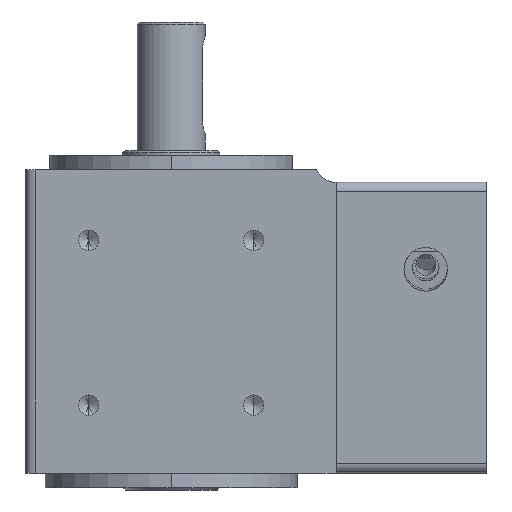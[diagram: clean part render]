
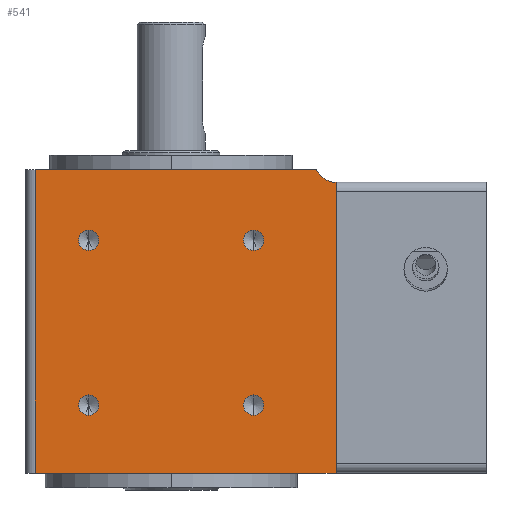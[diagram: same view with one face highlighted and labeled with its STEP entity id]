
A CAD part, left-side view. The second image highlights one B-rep face of the part: STEP entity #541.
In plain terms, the highlighted planar face has unit normal (-1, 0, 0).
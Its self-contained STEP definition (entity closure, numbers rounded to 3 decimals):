
#356 = VERTEX_POINT ( 'NONE', #8792 ) ;
#357 = VERTEX_POINT ( 'NONE', #8791 ) ;
#491 = EDGE_LOOP ( 'NONE', ( #545, #544 ) ) ;
#521 = VERTEX_POINT ( 'NONE', #9050 ) ;
#528 = VERTEX_POINT ( 'NONE', #9116 ) ;
#534 = EDGE_CURVE ( 'NONE', #1090, #1046, #9117, .T. ) ;
#535 = ORIENTED_EDGE ( 'NONE', *, *, #592, .F. ) ;
#537 = EDGE_LOOP ( 'NONE', ( #584, #574 ) ) ;
#541 = ADVANCED_FACE ( 'NONE', ( #9102, #9120, #9151, #9097, #9108 ), #9091, .F. ) ;
#543 = ORIENTED_EDGE ( 'NONE', *, *, #568, .F. ) ;
#544 = ORIENTED_EDGE ( 'NONE', *, *, #1088, .F. ) ;
#545 = ORIENTED_EDGE ( 'NONE', *, *, #534, .F. ) ;
#547 = ORIENTED_EDGE ( 'NONE', *, *, #32835, .F. ) ;
#549 = VERTEX_POINT ( 'NONE', #9149 ) ;
#557 = EDGE_LOOP ( 'NONE', ( #561, #602, #535, #565, #632 ) ) ;
#560 = VERTEX_POINT ( 'NONE', #9183 ) ;
#561 = ORIENTED_EDGE ( 'NONE', *, *, #596, .F. ) ;
#564 = VERTEX_POINT ( 'NONE', #9181 ) ;
#565 = ORIENTED_EDGE ( 'NONE', *, *, #589, .T. ) ;
#567 = ORIENTED_EDGE ( 'NONE', *, *, #952, .F. ) ;
#568 = EDGE_CURVE ( 'NONE', #549, #528, #9182, .T. ) ;
#571 = EDGE_LOOP ( 'NONE', ( #543, #567 ) ) ;
#574 = ORIENTED_EDGE ( 'NONE', *, *, #32837, .F. ) ;
#575 = EDGE_CURVE ( 'NONE', #356, #357, #9168, .T. ) ;
#576 = EDGE_CURVE ( 'NONE', #32838, #32823, #9173, .T. ) ;
#581 = EDGE_LOOP ( 'NONE', ( #582, #547 ) ) ;
#582 = ORIENTED_EDGE ( 'NONE', *, *, #576, .F. ) ;
#584 = ORIENTED_EDGE ( 'NONE', *, *, #575, .F. ) ;
#589 = EDGE_CURVE ( 'NONE', #608, #521, #9156, .T. ) ;
#592 = EDGE_CURVE ( 'NONE', #608, #564, #9210, .T. ) ;
#595 = EDGE_CURVE ( 'NONE', #560, #521, #9208, .T. ) ;
#596 = EDGE_CURVE ( 'NONE', #610, #560, #9195, .T. ) ;
#602 = ORIENTED_EDGE ( 'NONE', *, *, #605, .F. ) ;
#605 = EDGE_CURVE ( 'NONE', #564, #610, #9200, .T. ) ;
#608 = VERTEX_POINT ( 'NONE', #9242 ) ;
#610 = VERTEX_POINT ( 'NONE', #9185 ) ;
#632 = ORIENTED_EDGE ( 'NONE', *, *, #595, .F. ) ;
#952 = EDGE_CURVE ( 'NONE', #528, #549, #9942, .T. ) ;
#1046 = VERTEX_POINT ( 'NONE', #10148 ) ;
#1088 = EDGE_CURVE ( 'NONE', #1046, #1090, #10245, .T. ) ;
#1090 = VERTEX_POINT ( 'NONE', #10232 ) ;
#8791 = CARTESIAN_POINT ( 'NONE',  ( -30., 19., 48.9 ) ) ;
#8792 = CARTESIAN_POINT ( 'NONE',  ( -30., 19., 53.1 ) ) ;
#9050 = CARTESIAN_POINT ( 'NONE',  ( -30., 30., 3. ) ) ;
#9089 = DIRECTION ( 'NONE',  ( -1., 0., 0. ) ) ;
#9090 = CARTESIAN_POINT ( 'NONE',  ( -30., -15., 51. ) ) ;
#9091 = PLANE ( 'NONE',  #9139 ) ;
#9097 = FACE_BOUND ( 'NONE', #571, .T. ) ;
#9102 = FACE_BOUND ( 'NONE', #491, .T. ) ;
#9108 = FACE_OUTER_BOUND ( 'NONE', #557, .T. ) ;
#9109 = AXIS2_PLACEMENT_3D ( 'NONE', #9090, #9089, #9152 ) ;
#9116 = CARTESIAN_POINT ( 'NONE',  ( -30., -15., 14.9 ) ) ;
#9117 = CIRCLE ( 'NONE', #9109, 2.1 ) ;
#9120 = FACE_BOUND ( 'NONE', #537, .T. ) ;
#9133 = AXIS2_PLACEMENT_3D ( 'NONE', #9177, #9176, #9175 ) ;
#9136 = DIRECTION ( 'NONE',  ( 0., 0., -1. ) ) ;
#9137 = DIRECTION ( 'NONE',  ( 1., 0., 0. ) ) ;
#9138 = CARTESIAN_POINT ( 'NONE',  ( -30., -32., 68.5 ) ) ;
#9139 = AXIS2_PLACEMENT_3D ( 'NONE', #9138, #9137, #9136 ) ;
#9149 = CARTESIAN_POINT ( 'NONE',  ( -30., -15., 19.1 ) ) ;
#9151 = FACE_BOUND ( 'NONE', #581, .T. ) ;
#9152 = DIRECTION ( 'NONE',  ( 0., 0., 1. ) ) ;
#9153 = CARTESIAN_POINT ( 'NONE',  ( -30., 19., 17. ) ) ;
#9155 = CARTESIAN_POINT ( 'NONE',  ( -30., 30., 68.5 ) ) ;
#9156 = LINE ( 'NONE', #9155, #9162 ) ;
#9157 = DIRECTION ( 'NONE',  ( 0., 0., 1. ) ) ;
#9158 = DIRECTION ( 'NONE',  ( -1., 0., 0. ) ) ;
#9159 = AXIS2_PLACEMENT_3D ( 'NONE', #9178, #9158, #9157 ) ;
#9160 = DIRECTION ( 'NONE',  ( -1., 0., 0. ) ) ;
#9162 = VECTOR ( 'NONE', #9212, 1000. ) ;
#9168 = CIRCLE ( 'NONE', #9159, 2.1 ) ;
#9173 = CIRCLE ( 'NONE', #9216, 2.1 ) ;
#9175 = DIRECTION ( 'NONE',  ( 0., 0., 1. ) ) ;
#9176 = DIRECTION ( 'NONE',  ( -1., 0., 0. ) ) ;
#9177 = CARTESIAN_POINT ( 'NONE',  ( -30., -15., 17. ) ) ;
#9178 = CARTESIAN_POINT ( 'NONE',  ( -30., 19., 51. ) ) ;
#9181 = CARTESIAN_POINT ( 'NONE',  ( -30., -27.944, 65.5 ) ) ;
#9182 = CIRCLE ( 'NONE', #9133, 2.1 ) ;
#9183 = CARTESIAN_POINT ( 'NONE',  ( -30., -32., 3. ) ) ;
#9185 = CARTESIAN_POINT ( 'NONE',  ( -30., -32., 62.95 ) ) ;
#9190 = AXIS2_PLACEMENT_3D ( 'NONE', #9246, #9245, #9244 ) ;
#9192 = DIRECTION ( 'NONE',  ( 0., 0., -1. ) ) ;
#9193 = VECTOR ( 'NONE', #9192, 1000. ) ;
#9194 = CARTESIAN_POINT ( 'NONE',  ( -30., -32., 68.5 ) ) ;
#9195 = LINE ( 'NONE', #9194, #9193 ) ;
#9198 = DIRECTION ( 'NONE',  ( 0., 1., 0. ) ) ;
#9199 = VECTOR ( 'NONE', #9198, 1000. ) ;
#9200 = CIRCLE ( 'NONE', #9190, 4.5 ) ;
#9203 = DIRECTION ( 'NONE',  ( 0., -1., 0. ) ) ;
#9204 = VECTOR ( 'NONE', #9203, 1000. ) ;
#9205 = CARTESIAN_POINT ( 'NONE',  ( -30., -32., 65.5 ) ) ;
#9207 = CARTESIAN_POINT ( 'NONE',  ( -30., -32., 3. ) ) ;
#9208 = LINE ( 'NONE', #9207, #9199 ) ;
#9210 = LINE ( 'NONE', #9205, #9204 ) ;
#9212 = DIRECTION ( 'NONE',  ( 0., 0., -1. ) ) ;
#9215 = DIRECTION ( 'NONE',  ( 0., 0., 1. ) ) ;
#9216 = AXIS2_PLACEMENT_3D ( 'NONE', #9153, #9160, #9215 ) ;
#9242 = CARTESIAN_POINT ( 'NONE',  ( -30., 30., 65.5 ) ) ;
#9244 = DIRECTION ( 'NONE',  ( 0., 0., 1. ) ) ;
#9245 = DIRECTION ( 'NONE',  ( -1., 0., 0. ) ) ;
#9246 = CARTESIAN_POINT ( 'NONE',  ( -30., -32., 67.45 ) ) ;
#9939 = DIRECTION ( 'NONE',  ( 0., 0., 1. ) ) ;
#9940 = DIRECTION ( 'NONE',  ( -1., 0., 0. ) ) ;
#9941 = AXIS2_PLACEMENT_3D ( 'NONE', #9951, #9940, #9939 ) ;
#9942 = CIRCLE ( 'NONE', #9941, 2.1 ) ;
#9951 = CARTESIAN_POINT ( 'NONE',  ( -30., -15., 17. ) ) ;
#10148 = CARTESIAN_POINT ( 'NONE',  ( -30., -15., 48.9 ) ) ;
#10229 = DIRECTION ( 'NONE',  ( 0., 0., 1. ) ) ;
#10230 = DIRECTION ( 'NONE',  ( -1., 0., 0. ) ) ;
#10231 = CARTESIAN_POINT ( 'NONE',  ( -30., -15., 51. ) ) ;
#10232 = CARTESIAN_POINT ( 'NONE',  ( -30., -15., 53.1 ) ) ;
#10234 = AXIS2_PLACEMENT_3D ( 'NONE', #10231, #10230, #10229 ) ;
#10245 = CIRCLE ( 'NONE', #10234, 2.1 ) ;
#31574 = DIRECTION ( 'NONE',  ( -1., 0., 0. ) ) ;
#31577 = DIRECTION ( 'NONE',  ( 0., 0., 1. ) ) ;
#31578 = DIRECTION ( 'NONE',  ( -1., 0., 0. ) ) ;
#31579 = CARTESIAN_POINT ( 'NONE',  ( -30., 19., 17. ) ) ;
#31580 = CARTESIAN_POINT ( 'NONE',  ( -30., 19., 51. ) ) ;
#31590 = CIRCLE ( 'NONE', #31597, 2.1 ) ;
#31591 = CARTESIAN_POINT ( 'NONE',  ( -30., 19., 19.1 ) ) ;
#31597 = AXIS2_PLACEMENT_3D ( 'NONE', #31579, #31578, #31577 ) ;
#31604 = CARTESIAN_POINT ( 'NONE',  ( -30., 19., 14.9 ) ) ;
#31629 = DIRECTION ( 'NONE',  ( 0., 0., 1. ) ) ;
#31630 = AXIS2_PLACEMENT_3D ( 'NONE', #31580, #31574, #31629 ) ;
#31631 = CIRCLE ( 'NONE', #31630, 2.1 ) ;
#32823 = VERTEX_POINT ( 'NONE', #31604 ) ;
#32835 = EDGE_CURVE ( 'NONE', #32823, #32838, #31590, .T. ) ;
#32837 = EDGE_CURVE ( 'NONE', #357, #356, #31631, .T. ) ;
#32838 = VERTEX_POINT ( 'NONE', #31591 ) ;
